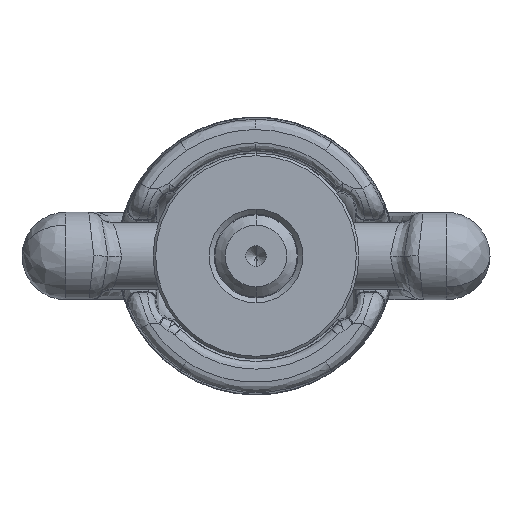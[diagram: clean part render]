
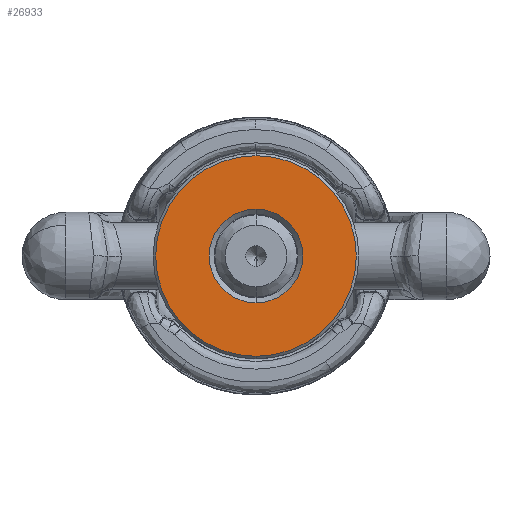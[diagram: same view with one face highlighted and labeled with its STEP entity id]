
A CAD part, front view. The second image highlights one B-rep face of the part: STEP entity #26933.
In plain terms, the highlighted planar face has unit normal (0, -1, 0).
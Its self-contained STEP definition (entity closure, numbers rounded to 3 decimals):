
#14791 = DIRECTION ( 'NONE',  ( 0., 0., -1. ) ) ;
#14792 = DIRECTION ( 'NONE',  ( 0., -1., 0. ) ) ;
#14793 = CARTESIAN_POINT ( 'NONE',  ( 0., 0., 0. ) ) ;
#14794 = AXIS2_PLACEMENT_3D ( 'NONE', #14793, #14792, #14791 ) ;
#14807 = CIRCLE ( 'NONE', #14794, 9.1 ) ;
#14917 = DIRECTION ( 'NONE',  ( 0., 1., 0. ) ) ;
#14918 = CARTESIAN_POINT ( 'NONE',  ( 0., 0., 0. ) ) ;
#14919 = AXIS2_PLACEMENT_3D ( 'NONE', #14918, #14917, #14927 ) ;
#14927 = DIRECTION ( 'NONE',  ( 0., 0., 1. ) ) ;
#14928 = PLANE ( 'NONE',  #14919 ) ;
#14930 = FACE_BOUND ( 'NONE', #26936, .T. ) ;
#14932 = FACE_OUTER_BOUND ( 'NONE', #27397, .T. ) ;
#14963 = DIRECTION ( 'NONE',  ( 0., 0., 1. ) ) ;
#14964 = DIRECTION ( 'NONE',  ( 0., 1., 0. ) ) ;
#14965 = AXIS2_PLACEMENT_3D ( 'NONE', #14971, #14964, #14963 ) ;
#14966 = CIRCLE ( 'NONE', #14965, 19.5 ) ;
#14971 = CARTESIAN_POINT ( 'NONE',  ( 0., 0., 0. ) ) ;
#23603 = VERTEX_POINT ( 'NONE', #24395 ) ;
#23604 = VERTEX_POINT ( 'NONE', #24394 ) ;
#23671 = VERTEX_POINT ( 'NONE', #24491 ) ;
#23952 = EDGE_CURVE ( 'NONE', #23603, #23604, #30661, .T. ) ;
#23957 = EDGE_CURVE ( 'NONE', #23671, #23958, #30682, .T. ) ;
#23958 = VERTEX_POINT ( 'NONE', #30696 ) ;
#24394 = CARTESIAN_POINT ( 'NONE',  ( 0., 0., -19.5 ) ) ;
#24395 = CARTESIAN_POINT ( 'NONE',  ( 0., 0., 19.5 ) ) ;
#24491 = CARTESIAN_POINT ( 'NONE',  ( 0., 0., 9.1 ) ) ;
#26933 = ADVANCED_FACE ( 'NONE', ( #14930, #14932 ), #14928, .F. ) ;
#26936 = EDGE_LOOP ( 'NONE', ( #27418, #27190 ) ) ;
#26976 = EDGE_CURVE ( 'NONE', #23958, #23671, #14807, .T. ) ;
#27190 = ORIENTED_EDGE ( 'NONE', *, *, #23957, .F. ) ;
#27252 = EDGE_CURVE ( 'NONE', #23604, #23603, #14966, .T. ) ;
#27394 = ORIENTED_EDGE ( 'NONE', *, *, #23952, .F. ) ;
#27397 = EDGE_LOOP ( 'NONE', ( #27394, #27463 ) ) ;
#27418 = ORIENTED_EDGE ( 'NONE', *, *, #26976, .F. ) ;
#27463 = ORIENTED_EDGE ( 'NONE', *, *, #27252, .F. ) ;
#30651 = CARTESIAN_POINT ( 'NONE',  ( 0., 0., 0. ) ) ;
#30658 = DIRECTION ( 'NONE',  ( 0., 0., 1. ) ) ;
#30659 = DIRECTION ( 'NONE',  ( 0., 1., 0. ) ) ;
#30660 = AXIS2_PLACEMENT_3D ( 'NONE', #30651, #30659, #30658 ) ;
#30661 = CIRCLE ( 'NONE', #30660, 19.5 ) ;
#30679 = AXIS2_PLACEMENT_3D ( 'NONE', #30698, #30697, #30683 ) ;
#30682 = CIRCLE ( 'NONE', #30679, 9.1 ) ;
#30683 = DIRECTION ( 'NONE',  ( 0., 0., -1. ) ) ;
#30696 = CARTESIAN_POINT ( 'NONE',  ( 0., 0., -9.1 ) ) ;
#30697 = DIRECTION ( 'NONE',  ( 0., -1., 0. ) ) ;
#30698 = CARTESIAN_POINT ( 'NONE',  ( 0., 0., 0. ) ) ;
